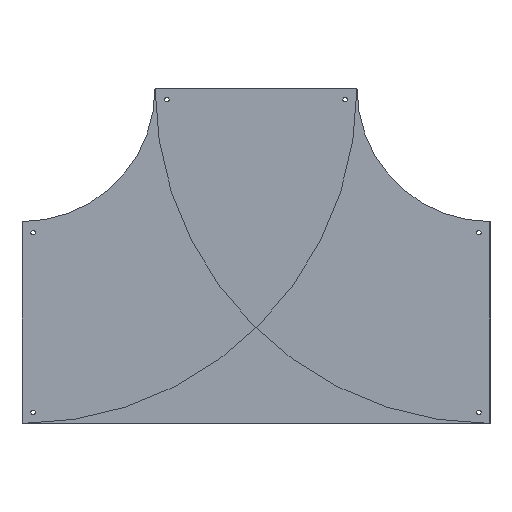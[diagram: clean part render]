
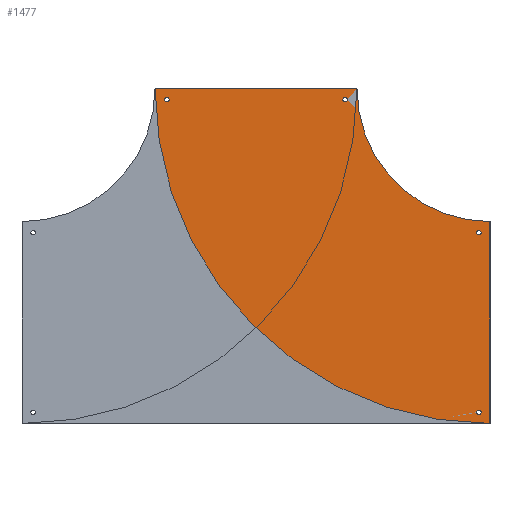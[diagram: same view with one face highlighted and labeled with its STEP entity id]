
A CAD part, top view. The second image highlights one B-rep face of the part: STEP entity #1477.
In plain terms, the highlighted planar face has unit normal (0, 0, 1).
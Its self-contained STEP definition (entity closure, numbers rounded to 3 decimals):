
#101=FACE_BOUND('',#394,.T.);
#102=FACE_BOUND('',#395,.T.);
#103=FACE_BOUND('',#396,.T.);
#104=FACE_BOUND('',#397,.T.);
#169=CIRCLE('',#1639,751.5);
#180=CIRCLE('',#1652,298.5);
#181=CIRCLE('',#1654,5.);
#182=CIRCLE('',#1655,5.);
#183=CIRCLE('',#1656,5.);
#184=CIRCLE('',#1657,5.);
#185=CIRCLE('',#1658,5.);
#186=CIRCLE('',#1659,5.);
#187=CIRCLE('',#1660,5.);
#188=CIRCLE('',#1661,5.);
#285=FACE_OUTER_BOUND('',#393,.T.);
#393=EDGE_LOOP('',(#1316,#1317,#1318,#1319));
#394=EDGE_LOOP('',(#1320,#1321));
#395=EDGE_LOOP('',(#1322,#1323));
#396=EDGE_LOOP('',(#1324,#1325));
#397=EDGE_LOOP('',(#1326,#1327));
#507=LINE('',#2507,#621);
#509=LINE('',#2513,#623);
#621=VECTOR('',#2061,304.8);
#623=VECTOR('',#2065,304.8);
#742=VERTEX_POINT('',#2500);
#745=VERTEX_POINT('',#2505);
#747=VERTEX_POINT('',#2510);
#748=VERTEX_POINT('',#2512);
#758=VERTEX_POINT('',#2541);
#759=VERTEX_POINT('',#2542);
#760=VERTEX_POINT('',#2545);
#761=VERTEX_POINT('',#2546);
#762=VERTEX_POINT('',#2549);
#763=VERTEX_POINT('',#2550);
#764=VERTEX_POINT('',#2553);
#765=VERTEX_POINT('',#2554);
#931=EDGE_CURVE('',#745,#742,#507,.T.);
#933=EDGE_CURVE('',#747,#748,#509,.T.);
#936=EDGE_CURVE('',#742,#747,#169,.T.);
#947=EDGE_CURVE('',#748,#745,#180,.T.);
#948=EDGE_CURVE('',#758,#759,#181,.T.);
#949=EDGE_CURVE('',#759,#758,#182,.T.);
#950=EDGE_CURVE('',#760,#761,#183,.T.);
#951=EDGE_CURVE('',#761,#760,#184,.T.);
#952=EDGE_CURVE('',#762,#763,#185,.T.);
#953=EDGE_CURVE('',#763,#762,#186,.T.);
#954=EDGE_CURVE('',#764,#765,#187,.T.);
#955=EDGE_CURVE('',#765,#764,#188,.T.);
#1316=ORIENTED_EDGE('',*,*,#931,.F.);
#1317=ORIENTED_EDGE('',*,*,#947,.F.);
#1318=ORIENTED_EDGE('',*,*,#933,.F.);
#1319=ORIENTED_EDGE('',*,*,#936,.F.);
#1320=ORIENTED_EDGE('',*,*,#948,.T.);
#1321=ORIENTED_EDGE('',*,*,#949,.T.);
#1322=ORIENTED_EDGE('',*,*,#950,.T.);
#1323=ORIENTED_EDGE('',*,*,#951,.T.);
#1324=ORIENTED_EDGE('',*,*,#952,.T.);
#1325=ORIENTED_EDGE('',*,*,#953,.T.);
#1326=ORIENTED_EDGE('',*,*,#954,.T.);
#1327=ORIENTED_EDGE('',*,*,#955,.T.);
#1401=PLANE('',#1653);
#1477=ADVANCED_FACE('',(#285,#101,#102,#103,#104),#1401,.F.);
#1639=AXIS2_PLACEMENT_3D('',#2518,#2070,#2071);
#1652=AXIS2_PLACEMENT_3D('',#2539,#2096,#2097);
#1653=AXIS2_PLACEMENT_3D('',#2540,#2098,#2099);
#1654=AXIS2_PLACEMENT_3D('',#2543,#2100,#2101);
#1655=AXIS2_PLACEMENT_3D('',#2544,#2102,#2103);
#1656=AXIS2_PLACEMENT_3D('',#2547,#2104,#2105);
#1657=AXIS2_PLACEMENT_3D('',#2548,#2106,#2107);
#1658=AXIS2_PLACEMENT_3D('',#2551,#2108,#2109);
#1659=AXIS2_PLACEMENT_3D('',#2552,#2110,#2111);
#1660=AXIS2_PLACEMENT_3D('',#2555,#2112,#2113);
#1661=AXIS2_PLACEMENT_3D('',#2556,#2114,#2115);
#2061=DIRECTION('',(0.,-1.,0.));
#2065=DIRECTION('',(1.,0.,0.));
#2070=DIRECTION('center_axis',(0.,0.,-1.));
#2071=DIRECTION('ref_axis',(0.,-1.,0.));
#2096=DIRECTION('center_axis',(0.,0.,1.));
#2097=DIRECTION('ref_axis',(0.,-1.,0.));
#2098=DIRECTION('center_axis',(0.,0.,-1.));
#2099=DIRECTION('ref_axis',(0.,-1.,0.));
#2100=DIRECTION('center_axis',(0.,0.,-1.));
#2101=DIRECTION('ref_axis',(1.,0.,0.));
#2102=DIRECTION('center_axis',(0.,0.,-1.));
#2103=DIRECTION('ref_axis',(1.,0.,0.));
#2104=DIRECTION('center_axis',(0.,0.,-1.));
#2105=DIRECTION('ref_axis',(1.,0.,0.));
#2106=DIRECTION('center_axis',(0.,0.,-1.));
#2107=DIRECTION('ref_axis',(1.,0.,0.));
#2108=DIRECTION('center_axis',(0.,0.,-1.));
#2109=DIRECTION('ref_axis',(1.,0.,0.));
#2110=DIRECTION('center_axis',(0.,0.,-1.));
#2111=DIRECTION('ref_axis',(1.,0.,0.));
#2112=DIRECTION('center_axis',(0.,0.,-1.));
#2113=DIRECTION('ref_axis',(1.,0.,0.));
#2114=DIRECTION('center_axis',(0.,0.,-1.));
#2115=DIRECTION('ref_axis',(1.,0.,0.));
#2500=CARTESIAN_POINT('',(525.,-226.5,1.5));
#2505=CARTESIAN_POINT('',(525.,226.5,1.5));
#2507=CARTESIAN_POINT('',(525.,226.5,1.5));
#2510=CARTESIAN_POINT('',(-226.5,525.,1.5));
#2512=CARTESIAN_POINT('',(226.5,525.,1.5));
#2513=CARTESIAN_POINT('',(-226.5,525.,1.5));
#2518=CARTESIAN_POINT('Origin',(525.,525.,1.5));
#2539=CARTESIAN_POINT('Origin',(525.,525.,1.5));
#2540=CARTESIAN_POINT('Origin',(525.,525.,1.5));
#2541=CARTESIAN_POINT('',(-195.,500.,1.5));
#2542=CARTESIAN_POINT('',(-205.,500.,1.5));
#2543=CARTESIAN_POINT('Origin',(-200.,500.,1.5));
#2544=CARTESIAN_POINT('Origin',(-200.,500.,1.5));
#2545=CARTESIAN_POINT('',(205.,500.,1.5));
#2546=CARTESIAN_POINT('',(195.,500.,1.5));
#2547=CARTESIAN_POINT('Origin',(200.,500.,1.5));
#2548=CARTESIAN_POINT('Origin',(200.,500.,1.5));
#2549=CARTESIAN_POINT('',(505.,201.5,1.5));
#2550=CARTESIAN_POINT('',(495.,201.5,1.5));
#2551=CARTESIAN_POINT('Origin',(500.,201.5,1.5));
#2552=CARTESIAN_POINT('Origin',(500.,201.5,1.5));
#2553=CARTESIAN_POINT('',(505.,-201.5,1.5));
#2554=CARTESIAN_POINT('',(495.,-201.5,1.5));
#2555=CARTESIAN_POINT('Origin',(500.,-201.5,1.5));
#2556=CARTESIAN_POINT('Origin',(500.,-201.5,1.5));
